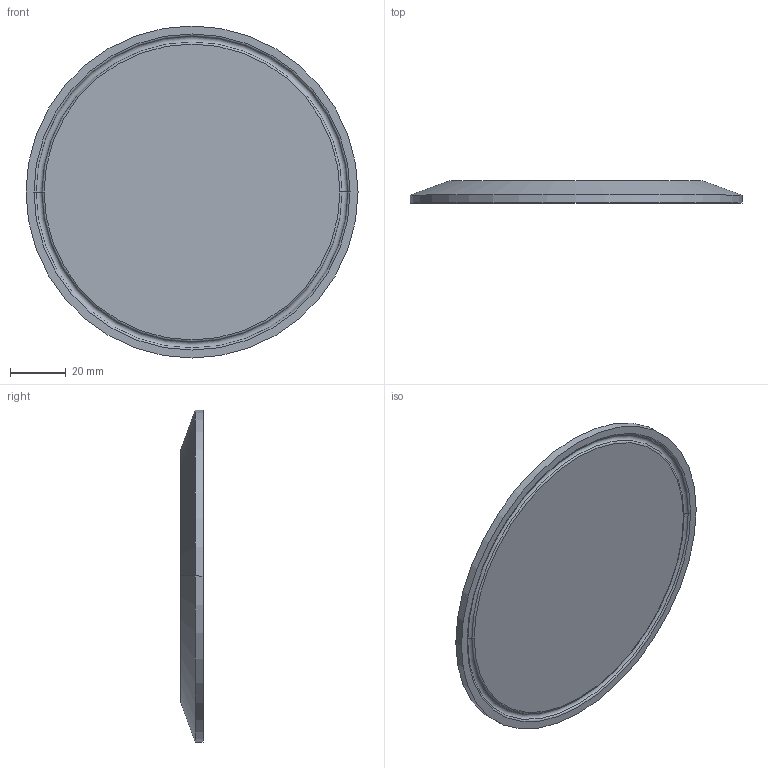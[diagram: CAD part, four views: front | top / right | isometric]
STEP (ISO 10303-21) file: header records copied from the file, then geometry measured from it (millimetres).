
FILE_DESCRIPTION (( 'STEP AP203' ), '1' );
FILE_NAME ('TEG16A6L4.0.STEP', '2022-01-07T17:26:18', ( '' ), ( '' ), 'SwSTEP 2.0', 'SolidWorks 2021', '' );
FILE_SCHEMA (( 'CONFIG_CONTROL_DESIGN' ));
Length unit declared in the file: inch
Products named in the file (1): TEG16A6L4.0
Bounding box: 118.92 x 7.95 x 118.92 mm (x, y, z)
Volume: 75166.9 mm3; surface area: 23908.2 mm2
Topology: 1 solids, 1 shells, 13 faces, 24 edges, 14 vertices
Faces by surface type: torus 6, plane 3, cylinder 2, cone 2
Entity records: 409 total; most frequent: DIRECTION 72, CARTESIAN_POINT 52, ORIENTED_EDGE 48, AXIS2_PLACEMENT_3D 34, EDGE_CURVE 24, CIRCLE 20, VERTEX_POINT 14, EDGE_LOOP 14
